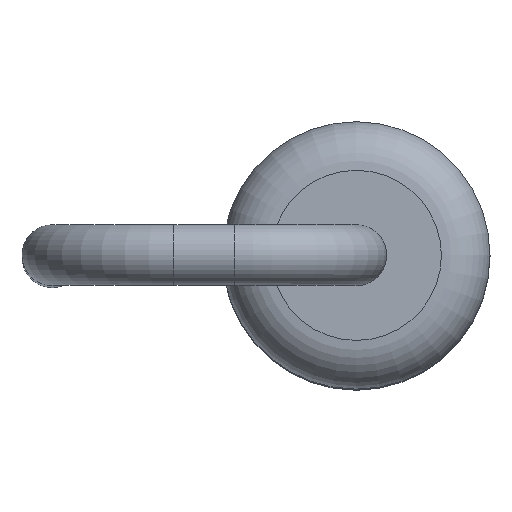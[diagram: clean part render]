
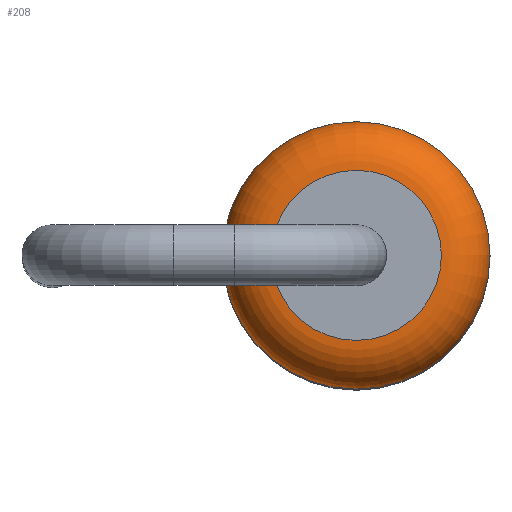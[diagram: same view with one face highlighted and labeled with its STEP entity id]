
A CAD part, top view. The second image highlights one B-rep face of the part: STEP entity #208.
In plain terms, the highlighted toroidal (fillet/blend) face has major radius 0.7 mm and minor radius 0.4 mm.
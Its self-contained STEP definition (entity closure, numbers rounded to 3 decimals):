
#208=ADVANCED_FACE('',(#377,#379),#381,.T.);
#377=FACE_OUTER_BOUND('',#378,.T.);
#378=EDGE_LOOP('',(#468));
#379=FACE_OUTER_BOUND('',#380,.T.);
#380=EDGE_LOOP('',(#469));
#381=TOROIDAL_SURFACE('',#382,0.7,0.4);
#382=AXIS2_PLACEMENT_3D('',#383,#384,#385);
#383=CARTESIAN_POINT('',(0.,0.,2.6));
#384=DIRECTION('',(0.,0.,1.));
#385=DIRECTION('',(1.,0.,0.));
#468=ORIENTED_EDGE('',*,*,#493,.T.);
#469=ORIENTED_EDGE('',*,*,#494,.F.);
#493=EDGE_CURVE('',#521,#521,#522,.T.);
#494=EDGE_CURVE('',#523,#523,#524,.T.);
#521=VERTEX_POINT('',#587);
#522=CIRCLE('',#588,1.1);
#523=VERTEX_POINT('',#592);
#524=CIRCLE('',#593,0.7);
#587=CARTESIAN_POINT('',(1.1,0.,2.6));
#588=AXIS2_PLACEMENT_3D('',#589,#590,#591);
#589=CARTESIAN_POINT('',(0.,0.,2.6));
#590=DIRECTION('',(0.,0.,1.));
#591=DIRECTION('',(1.,0.,0.));
#592=CARTESIAN_POINT('',(0.7,0.,3.));
#593=AXIS2_PLACEMENT_3D('',#594,#595,#596);
#594=CARTESIAN_POINT('',(0.,0.,3.));
#595=DIRECTION('',(0.,0.,1.));
#596=DIRECTION('',(1.,0.,0.));
